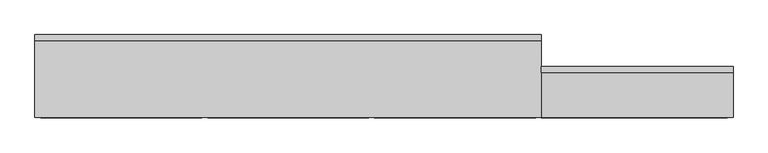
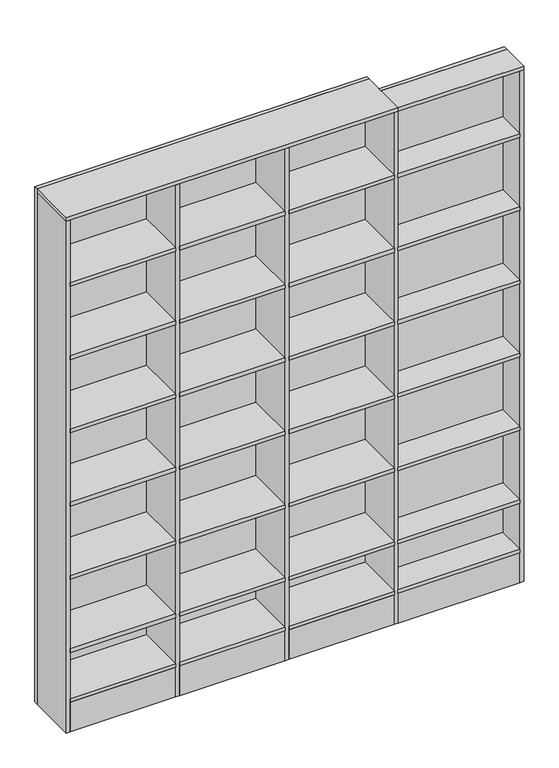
"""IFC4 building model written with IfcOpenShell, lengths in millimetres: furniture geometry, C20 Estanteria grande : C20.1 Estanteria grande 26."""

from ifc_helpers import new_model, si_unit, frame, origin, place, context, project, spatial, polyline, outline, extrude, source, transform, mapped, element, save


def furniture_5da2b43e(model_context):
    return source(origin(), model_context, "Body", "SweptSolid", [
        extrude(outline(polyline([(537.2003264, 0.0), (537.2003264, -18.0), (-1047.7996736, -18.0), (-1047.7996736, 0.0), (537.2003264, 0.0)])), frame((0.0, 0.0, 20.0), z_axis=(0.0, 0.0, 1.0), x_axis=(1.0, 0.0, 0.0)), (0.0, 0.0, 1.0), 2600.0),
        extrude(outline(polyline([(1137.2003264, -100.0), (1137.2003264, -118.0), (537.2003264, -118.0), (537.2003264, -100.0), (1137.2003264, -100.0)])), frame((0.0, 0.0, 20.0), z_axis=(0.0, 0.0, 1.0), x_axis=(1.0, 0.0, 0.0)), (0.0, 0.0, 1.0), 2600.0),
        extrude(outline(polyline([(519.2003264, -260.0), (14.8669931, -260.0), (14.8669931, -18.0), (519.2003264, -18.0), (519.2003264, -260.0)])), frame((0.0, 0.0, 789.6), z_axis=(0.0, 0.0, 1.0), x_axis=(1.0, 0.0, 0.0)), (0.0, 0.0, 1.0), 18.0),
        extrude(outline(polyline([(519.2003264, -260.0), (14.8669931, -260.0), (14.8669931, -18.0), (519.2003264, -18.0), (519.2003264, -260.0)])), frame((0.0, 0.0, 1159.2), z_axis=(0.0, 0.0, 1.0), x_axis=(1.0, 0.0, 0.0)), (0.0, 0.0, 1.0), 18.0),
        extrude(outline(polyline([(519.2003264, -260.0), (14.8669931, -260.0), (14.8669931, -18.0), (519.2003264, -18.0), (519.2003264, -260.0)])), frame((0.0, 0.0, 1528.8), z_axis=(0.0, 0.0, 1.0), x_axis=(1.0, 0.0, 0.0)), (0.0, 0.0, 1.0), 18.0),
        extrude(outline(polyline([(-3.1330069, -260.0), (-507.4663402, -260.0), (-507.4663402, -18.0), (-3.1330069, -18.0), (-3.1330069, -260.0)])), frame((0.0, 0.0, 789.6), z_axis=(0.0, 0.0, 1.0), x_axis=(1.0, 0.0, 0.0)), (0.0, 0.0, 1.0), 18.0),
        extrude(outline(polyline([(-3.1330069, -260.0), (-507.4663402, -260.0), (-507.4663402, -18.0), (-3.1330069, -18.0), (-3.1330069, -260.0)])), frame((0.0, 0.0, 1159.2), z_axis=(0.0, 0.0, 1.0), x_axis=(1.0, 0.0, 0.0)), (0.0, 0.0, 1.0), 18.0),
        extrude(outline(polyline([(-3.1330069, -260.0), (-507.4663402, -260.0), (-507.4663402, -18.0), (-3.1330069, -18.0), (-3.1330069, -260.0)])), frame((0.0, 0.0, 1528.8), z_axis=(0.0, 0.0, 1.0), x_axis=(1.0, 0.0, 0.0)), (0.0, 0.0, 1.0), 18.0),
        extrude(outline(polyline([(-525.4663402, -260.0), (-1029.7996736, -260.0), (-1029.7996736, -18.0), (-525.4663402, -18.0), (-525.4663402, -260.0)])), frame((0.0, 0.0, 789.6), z_axis=(0.0, 0.0, 1.0), x_axis=(1.0, 0.0, 0.0)), (0.0, 0.0, 1.0), 18.0),
        extrude(outline(polyline([(-525.4663402, -260.0), (-1029.7996736, -260.0), (-1029.7996736, -18.0), (-525.4663402, -18.0), (-525.4663402, -260.0)])), frame((0.0, 0.0, 1159.2), z_axis=(0.0, 0.0, 1.0), x_axis=(1.0, 0.0, 0.0)), (0.0, 0.0, 1.0), 18.0),
        extrude(outline(polyline([(-525.4663402, -260.0), (-1029.7996736, -260.0), (-1029.7996736, -18.0), (-525.4663402, -18.0), (-525.4663402, -260.0)])), frame((0.0, 0.0, 1528.8), z_axis=(0.0, 0.0, 1.0), x_axis=(1.0, 0.0, 0.0)), (0.0, 0.0, 1.0), 18.0),
        extrude(outline(polyline([(519.2003264, -260.0), (14.8669931, -260.0), (14.8669931, -18.0), (519.2003264, -18.0), (519.2003264, -260.0)])), frame((0.0, 0.0, 1898.4), z_axis=(0.0, 0.0, 1.0), x_axis=(1.0, 0.0, 0.0)), (0.0, 0.0, 1.0), 18.0),
        extrude(outline(polyline([(519.2003264, -260.0), (14.8669931, -260.0), (14.8669931, -18.0), (519.2003264, -18.0), (519.2003264, -260.0)])), frame((0.0, 0.0, 2268.0), z_axis=(0.0, 0.0, 1.0), x_axis=(1.0, 0.0, 0.0)), (0.0, 0.0, 1.0), 18.0),
        extrude(outline(polyline([(-3.1330069, -260.0), (-507.4663402, -260.0), (-507.4663402, -18.0), (-3.1330069, -18.0), (-3.1330069, -260.0)])), frame((0.0, 0.0, 1898.4), z_axis=(0.0, 0.0, 1.0), x_axis=(1.0, 0.0, 0.0)), (0.0, 0.0, 1.0), 18.0),
        extrude(outline(polyline([(-3.1330069, -260.0), (-507.4663402, -260.0), (-507.4663402, -18.0), (-3.1330069, -18.0), (-3.1330069, -260.0)])), frame((0.0, 0.0, 2268.0), z_axis=(0.0, 0.0, 1.0), x_axis=(1.0, 0.0, 0.0)), (0.0, 0.0, 1.0), 18.0),
        extrude(outline(polyline([(-525.4663402, -260.0), (-1029.7996736, -260.0), (-1029.7996736, -18.0), (-525.4663402, -18.0), (-525.4663402, -260.0)])), frame((0.0, 0.0, 1898.4), z_axis=(0.0, 0.0, 1.0), x_axis=(1.0, 0.0, 0.0)), (0.0, 0.0, 1.0), 18.0),
        extrude(outline(polyline([(-525.4663402, -260.0), (-1029.7996736, -260.0), (-1029.7996736, -18.0), (-525.4663402, -18.0), (-525.4663402, -260.0)])), frame((0.0, 0.0, 2268.0), z_axis=(0.0, 0.0, 1.0), x_axis=(1.0, 0.0, 0.0)), (0.0, 0.0, 1.0), 18.0),
        extrude(outline(polyline([(537.2003264, -260.0), (-1047.7996736, -260.0), (-1047.7996736, -18.0), (537.2003264, -18.0), (537.2003264, -260.0)])), frame((0.0, 0.0, 2602.0), z_axis=(0.0, 0.0, 1.0), x_axis=(1.0, 0.0, 0.0)), (0.0, 0.0, 1.0), 18.0),
        extrude(outline(polyline([(519.2003264, -260.0), (14.8669931, -260.0), (14.8669931, -18.0), (519.2003264, -18.0), (519.2003264, -260.0)])), frame((0.0, 0.0, 420.0), z_axis=(0.0, 0.0, 1.0), x_axis=(1.0, 0.0, 0.0)), (0.0, 0.0, 1.0), 18.0),
        extrude(outline(polyline([(-3.1330069, -260.0), (-507.4663402, -260.0), (-507.4663402, -18.0), (-3.1330069, -18.0), (-3.1330069, -260.0)])), frame((0.0, 0.0, 420.0), z_axis=(0.0, 0.0, 1.0), x_axis=(1.0, 0.0, 0.0)), (0.0, 0.0, 1.0), 18.0),
        extrude(outline(polyline([(-525.4663402, -260.0), (-1029.7996736, -260.0), (-1029.7996736, -18.0), (-525.4663402, -18.0), (-525.4663402, -260.0)])), frame((0.0, 0.0, 420.0), z_axis=(0.0, 0.0, 1.0), x_axis=(1.0, 0.0, 0.0)), (0.0, 0.0, 1.0), 18.0),
        extrude(outline(polyline([(519.2003264, -260.0), (14.8669931, -260.0), (14.8669931, -18.0), (519.2003264, -18.0), (519.2003264, -260.0)])), frame((0.0, 0.0, 170.0), z_axis=(0.0, 0.0, 1.0), x_axis=(1.0, 0.0, 0.0)), (0.0, 0.0, 1.0), 18.0),
        extrude(outline(polyline([(-3.1330069, -260.0), (-507.4663402, -260.0), (-507.4663402, -18.0), (-3.1330069, -18.0), (-3.1330069, -260.0)])), frame((0.0, 0.0, 170.0), z_axis=(0.0, 0.0, 1.0), x_axis=(1.0, 0.0, 0.0)), (0.0, 0.0, 1.0), 18.0),
        extrude(outline(polyline([(-525.4663402, -260.0), (-1029.7996736, -260.0), (-1029.7996736, -18.0), (-525.4663402, -18.0), (-525.4663402, -260.0)])), frame((0.0, 0.0, 170.0), z_axis=(0.0, 0.0, 1.0), x_axis=(1.0, 0.0, 0.0)), (0.0, 0.0, 1.0), 18.0),
        extrude(outline(polyline([(1119.2003264, -260.0), (537.2003264, -260.0), (537.2003264, -118.0), (1119.2003264, -118.0), (1119.2003264, -260.0)])), frame((0.0, 0.0, 789.6), z_axis=(0.0, 0.0, 1.0), x_axis=(1.0, 0.0, 0.0)), (0.0, 0.0, 1.0), 18.0),
        extrude(outline(polyline([(1119.2003264, -260.0), (537.2003264, -260.0), (537.2003264, -118.0), (1119.2003264, -118.0), (1119.2003264, -260.0)])), frame((0.0, 0.0, 1159.2), z_axis=(0.0, 0.0, 1.0), x_axis=(1.0, 0.0, 0.0)), (0.0, 0.0, 1.0), 18.0),
        extrude(outline(polyline([(1119.2003264, -260.0), (537.2003264, -260.0), (537.2003264, -118.0), (1119.2003264, -118.0), (1119.2003264, -260.0)])), frame((0.0, 0.0, 1528.8), z_axis=(0.0, 0.0, 1.0), x_axis=(1.0, 0.0, 0.0)), (0.0, 0.0, 1.0), 18.0),
        extrude(outline(polyline([(1119.2003264, -260.0), (537.2003264, -260.0), (537.2003264, -118.0), (1119.2003264, -118.0), (1119.2003264, -260.0)])), frame((0.0, 0.0, 1898.4), z_axis=(0.0, 0.0, 1.0), x_axis=(1.0, 0.0, 0.0)), (0.0, 0.0, 1.0), 18.0),
        extrude(outline(polyline([(1119.2003264, -260.0), (537.2003264, -260.0), (537.2003264, -118.0), (1119.2003264, -118.0), (1119.2003264, -260.0)])), frame((0.0, 0.0, 2268.0), z_axis=(0.0, 0.0, 1.0), x_axis=(1.0, 0.0, 0.0)), (0.0, 0.0, 1.0), 18.0),
        extrude(outline(polyline([(1137.2003264, -260.0), (537.2003264, -260.0), (537.2003264, -118.0), (1137.2003264, -118.0), (1137.2003264, -260.0)])), frame((0.0, 0.0, 2602.0), z_axis=(0.0, 0.0, 1.0), x_axis=(1.0, 0.0, 0.0)), (0.0, 0.0, 1.0), 18.0),
        extrude(outline(polyline([(1119.2003264, -260.0), (537.2003264, -260.0), (537.2003264, -118.0), (1119.2003264, -118.0), (1119.2003264, -260.0)])), frame((0.0, 0.0, 420.0), z_axis=(0.0, 0.0, 1.0), x_axis=(1.0, 0.0, 0.0)), (0.0, 0.0, 1.0), 18.0),
        extrude(outline(polyline([(1119.2003264, -260.0), (537.2003264, -260.0), (537.2003264, -118.0), (1119.2003264, -118.0), (1119.2003264, -260.0)])), frame((0.0, 0.0, 170.0), z_axis=(0.0, 0.0, 1.0), x_axis=(1.0, 0.0, 0.0)), (0.0, 0.0, 1.0), 18.0),
        extrude(outline(polyline([(1137.2003264, -260.0), (1119.2003264, -260.0), (1119.2003264, -118.0), (1137.2003264, -118.0), (1137.2003264, -260.0)])), frame((0.0, 0.0, 20.0), z_axis=(0.0, 0.0, 1.0), x_axis=(1.0, 0.0, 0.0)), (0.0, 0.0, 1.0), 2582.0),
        extrude(outline(polyline([(-1047.7996736, -18.0), (-1029.7996736, -18.0), (-1029.7996736, -260.0), (-1047.7996736, -260.0), (-1047.7996736, -18.0)])), frame((0.0, 0.0, 20.0), z_axis=(0.0, 0.0, 1.0), x_axis=(1.0, 0.0, 0.0)), (0.0, 0.0, 1.0), 2582.0),
        extrude(outline(polyline([(-525.4663402, -18.0), (-507.4663402, -18.0), (-507.4663402, -260.0), (-525.4663402, -260.0), (-525.4663402, -18.0)])), frame((0.0, 0.0, 20.0), z_axis=(0.0, 0.0, 1.0), x_axis=(1.0, 0.0, 0.0)), (0.0, 0.0, 1.0), 2582.0),
        extrude(outline(polyline([(-3.1330069, -18.0), (14.8669931, -18.0), (14.8669931, -260.0), (-3.1330069, -260.0), (-3.1330069, -18.0)])), frame((0.0, 0.0, 20.0), z_axis=(0.0, 0.0, 1.0), x_axis=(1.0, 0.0, 0.0)), (0.0, 0.0, 1.0), 2582.0),
        extrude(outline(polyline([(519.2003264, -18.0), (537.2003264, -18.0), (537.2003264, -260.0), (519.2003264, -260.0), (519.2003264, -18.0)])), frame((0.0, 0.0, 20.0), z_axis=(0.0, 0.0, 1.0), x_axis=(1.0, 0.0, 0.0)), (0.0, 0.0, 1.0), 2582.0),
        extrude(outline(polyline([(-525.4663402, -260.0), (-1029.7996736, -260.0), (-1029.7996736, -248.0), (-525.4663402, -248.0), (-525.4663402, -260.0)])), frame((0.0, 0.0, 20.0), z_axis=(0.0, 0.0, 1.0), x_axis=(1.0, 0.0, 0.0)), (0.0, 0.0, 1.0), 150.0),
        extrude(outline(polyline([(-3.1330069, -260.0), (-507.4663402, -260.0), (-507.4663402, -248.0), (-3.1330069, -248.0), (-3.1330069, -260.0)])), frame((0.0, 0.0, 20.0), z_axis=(0.0, 0.0, 1.0), x_axis=(1.0, 0.0, 0.0)), (0.0, 0.0, 1.0), 150.0),
        extrude(outline(polyline([(519.2003264, -260.0), (14.8669931, -260.0), (14.8669931, -248.0), (519.2003264, -248.0), (519.2003264, -260.0)])), frame((0.0, 0.0, 20.0), z_axis=(0.0, 0.0, 1.0), x_axis=(1.0, 0.0, 0.0)), (0.0, 0.0, 1.0), 150.0),
        extrude(outline(polyline([(1119.2003264, -260.0), (537.2003264, -260.0), (537.2003264, -248.0), (1119.2003264, -248.0), (1119.2003264, -260.0)])), frame((0.0, 0.0, 20.0), z_axis=(0.0, 0.0, 1.0), x_axis=(1.0, 0.0, 0.0)), (0.0, 0.0, 1.0), 150.0),
    ])


if __name__ == "__main__":
    model = new_model("IFC4")
    model_context = context("Model", 3, world=origin())
    ifc_project = project(units=[si_unit("LENGTHUNIT", "METRE", prefix="MILLI")], contexts=[model_context])
    site = spatial("IfcSite", under=ifc_project)
    building = spatial("IfcBuilding", under=site)
    placement = place(None, origin())
    furniture_shape = furniture_5da2b43e(model_context)
    element("IfcFurniture", 1, ObjectType="C20 Estanteria grande : C20.1 Estanteria grande 26", at=placement, inside=building, context=model_context, shape_type="MappedRepresentation", body=[
        mapped(furniture_shape, transform((0.0, 0.0, 0.0), x_axis=(1.0, 0.0, 0.0), y_axis=(0.0, 1.0, 0.0), z_axis=(0.0, 0.0, 1.0))),
    ])
    save(model, "model.ifc")
